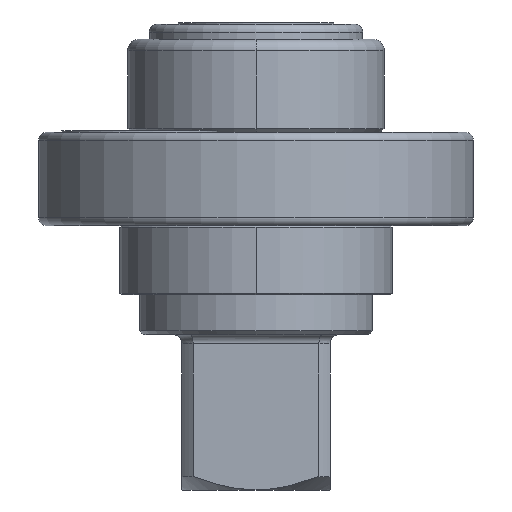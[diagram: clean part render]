
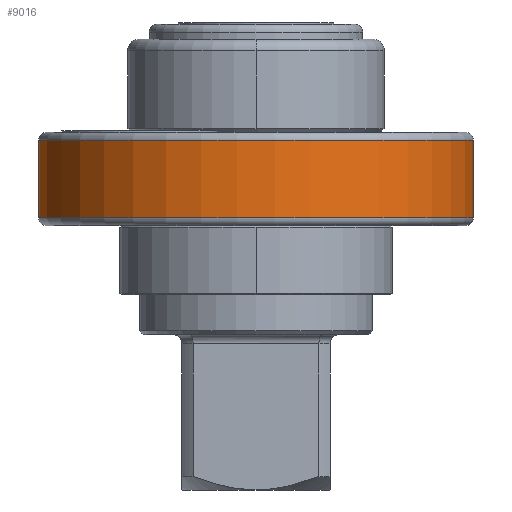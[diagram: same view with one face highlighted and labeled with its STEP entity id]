
A CAD part, front view. The second image highlights one B-rep face of the part: STEP entity #9016.
In plain terms, the highlighted cylindrical face has radius 28 mm (diameter 56 mm), a partial arc.
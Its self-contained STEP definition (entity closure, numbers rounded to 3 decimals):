
#1201=DIRECTION('',(0.,0.,-1.));
#1202=VECTOR('',#1201,10.);
#1203=CARTESIAN_POINT('',(-27.955,1.593,-1.));
#1204=LINE('',#1203,#1202);
#1215=CARTESIAN_POINT('',(0.,0.,-1.));
#1216=DIRECTION('',(0.,0.,1.));
#1217=DIRECTION('',(-0.998,0.057,0.));
#1218=AXIS2_PLACEMENT_3D('',#1215,#1216,#1217);
#1223=DIRECTION('',(0.,0.,-1.));
#1224=VECTOR('',#1223,10.);
#1225=CARTESIAN_POINT('',(27.955,1.593,-1.));
#1226=LINE('',#1225,#1224);
#1230=CARTESIAN_POINT('',(0.,0.,-11.));
#1231=DIRECTION('',(0.,0.,-1.));
#1232=DIRECTION('',(0.998,0.057,0.));
#1233=AXIS2_PLACEMENT_3D('',#1230,#1231,#1232);
#7301=CARTESIAN_POINT('',(-27.955,1.593,-1.));
#7302=VERTEX_POINT('',#7301);
#7305=CARTESIAN_POINT('',(27.955,1.593,-1.));
#7306=VERTEX_POINT('',#7305);
#7311=CARTESIAN_POINT('',(27.955,1.593,-11.));
#7312=CARTESIAN_POINT('',(-27.955,1.593,-11.));
#7313=VERTEX_POINT('',#7311);
#7314=VERTEX_POINT('',#7312);
#9004=CARTESIAN_POINT('',(0.,0.,0.));
#9005=DIRECTION('',(0.,0.,-1.));
#9006=DIRECTION('',(1.,0.,0.));
#9007=AXIS2_PLACEMENT_3D('',#9004,#9005,#9006);
#9008=CYLINDRICAL_SURFACE('',#9007,28.);
#9009=ORIENTED_EDGE('',*,*,#8942,.T.);
#9010=ORIENTED_EDGE('',*,*,#8971,.T.);
#9012=ORIENTED_EDGE('',*,*,#9011,.T.);
#9013=ORIENTED_EDGE('',*,*,#8996,.F.);
#9014=EDGE_LOOP('',(#9009,#9010,#9012,#9013));
#9015=FACE_OUTER_BOUND('',#9014,.F.);
#1219=CIRCLE('',#1218,28.);
#1234=CIRCLE('',#1233,28.);
#8942=EDGE_CURVE('',#7302,#7306,#1219,.T.);
#8971=EDGE_CURVE('',#7306,#7313,#1226,.T.);
#8996=EDGE_CURVE('',#7302,#7314,#1204,.T.);
#9011=EDGE_CURVE('',#7313,#7314,#1234,.T.);
#9016=ADVANCED_FACE('',(#9015),#9008,.T.);
